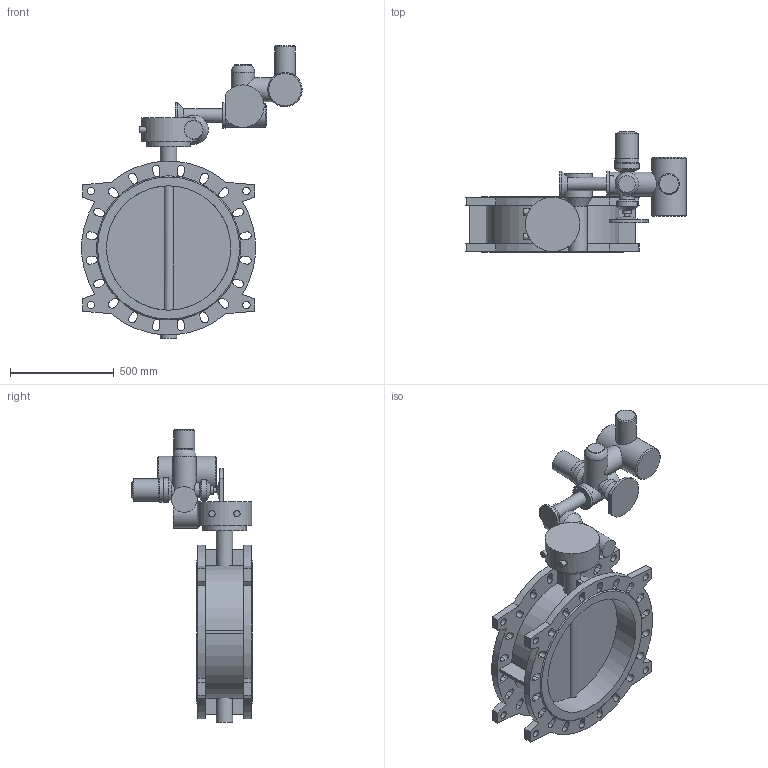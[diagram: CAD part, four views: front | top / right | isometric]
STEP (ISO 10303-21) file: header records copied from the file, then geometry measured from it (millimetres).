
FILE_DESCRIPTION(('STEP AP203'), '1');
FILE_NAME('Çàòâîð 021F.Y DN600 +ðåäóêòîð+ÌÒ903.À07-45 ñ ÁÓ', '', ('UNSPECIFIED'), ('UNSPECIFIED'), 'ASCON STEP Converter 1.6', 'ASCON Math Kernel', '');
FILE_SCHEMA(('CONFIG_CONTROL_DESIGN'));
Length unit declared in the file: millimetre
Bounding box: 1062.65 x 580.5 x 1410 mm (x, y, z)
Volume: 60001986 mm3; surface area: 3998950.2 mm2
Topology: 1 solids, 1 shells, 340 faces, 970 edges, 628 vertices
Faces by surface type: plane 174, cylinder 150, cone 15, torus 1
Full cylindrical faces by diameter (mm): 8.5 x4, 12 x4, 17.5 x4, 22 x4, 24 x1, 30 x2, 36 x8, 42 x1, 65 x1, 66 x1, 72 x1, 80 x3, 90 x1, 100 x2, 108 x1, 114 x2, 115 x1, 116 x1, 119 x1, 125 x2, 140 x1, 166 x1, 210 x1, 262 x1, 600 x2
Entity records: 16315 total; most frequent: CARTESIAN_POINT 4554, DIRECTION 1900, ORIENTED_EDGE 1772, EDGE_CURVE 886, AXIS2_PLACEMENT_3D 715, VERTEX_POINT 620, EDGE_LOOP 540, LINE 470
